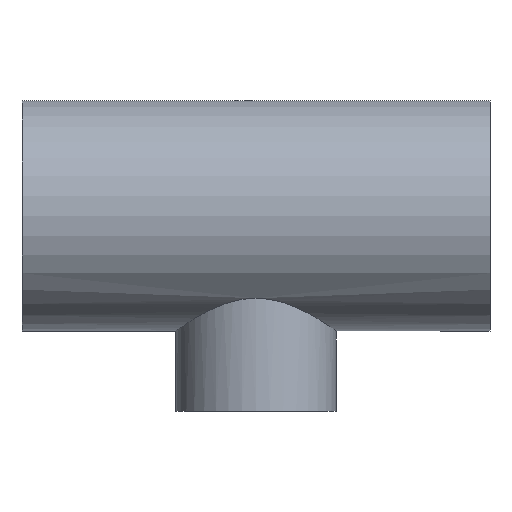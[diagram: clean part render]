
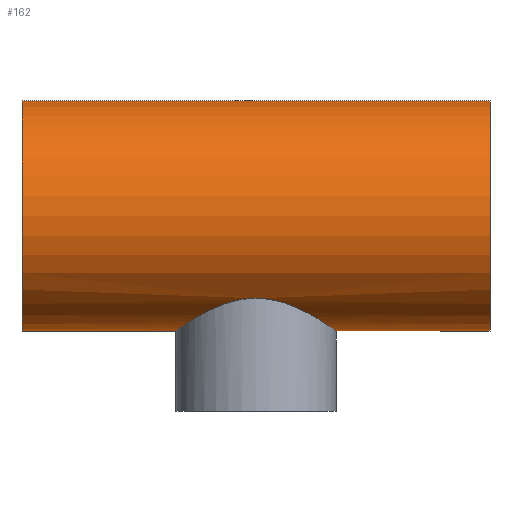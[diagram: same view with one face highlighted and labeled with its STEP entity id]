
A CAD part, top view. The second image highlights one B-rep face of the part: STEP entity #162.
In plain terms, the highlighted cylindrical face has radius 16.5 mm (diameter 33 mm), a full revolution.
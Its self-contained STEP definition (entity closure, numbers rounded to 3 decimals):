
#16=B_SPLINE_CURVE_WITH_KNOTS('',3,(#312,#313,#314,#315,#316,#317,#318,
#319,#320,#321,#322,#323,#324,#325,#326,#327,#328,#329,#330,#331,#332,#333,
#334,#335,#336,#337,#338,#339,#340,#341,#342,#343,#344,#345,#346,#347,#348,
#349,#350,#351,#352,#353,#354,#355,#356,#357,#358,#359,#360,#361),
 .UNSPECIFIED.,.T.,.F.,(4,2,2,2,2,2,2,2,2,2,2,2,2,2,2,2,2,2,2,2,2,2,2,2,
4),(0.,0.228,0.457,0.913,1.364,
1.589,1.814,2.039,2.265,2.715,
3.172,3.4,3.628,3.857,4.085,
4.542,4.992,5.218,5.443,5.668,
5.893,6.343,6.8,7.029,7.257),
 .UNSPECIFIED.);
#32=FACE_BOUND('',#69,.T.);
#33=FACE_BOUND('',#70,.T.);
#46=FACE_OUTER_BOUND('',#68,.T.);
#68=EDGE_LOOP('',(#136));
#69=EDGE_LOOP('',(#137));
#70=EDGE_LOOP('',(#138));
#88=CIRCLE('',#187,16.5);
#89=CIRCLE('',#188,16.5);
#101=VERTEX_POINT('',#309);
#102=VERTEX_POINT('',#311);
#103=VERTEX_POINT('',#362);
#115=EDGE_CURVE('',#101,#101,#88,.T.);
#116=EDGE_CURVE('',#102,#102,#16,.T.);
#117=EDGE_CURVE('',#103,#103,#89,.T.);
#136=ORIENTED_EDGE('',*,*,#115,.F.);
#137=ORIENTED_EDGE('',*,*,#116,.T.);
#138=ORIENTED_EDGE('',*,*,#117,.F.);
#152=CYLINDRICAL_SURFACE('',#186,16.5);
#162=ADVANCED_FACE('',(#46,#32,#33),#152,.T.);
#186=AXIS2_PLACEMENT_3D('',#308,#230,#231);
#187=AXIS2_PLACEMENT_3D('',#310,#232,#233);
#188=AXIS2_PLACEMENT_3D('',#363,#234,#235);
#230=DIRECTION('center_axis',(1.,0.,0.));
#231=DIRECTION('ref_axis',(0.,-1.,0.));
#232=DIRECTION('center_axis',(-1.,0.,0.));
#233=DIRECTION('ref_axis',(0.,-1.,0.));
#234=DIRECTION('center_axis',(1.,0.,0.));
#235=DIRECTION('ref_axis',(0.,-1.,0.));
#308=CARTESIAN_POINT('Origin',(0.,0.,0.));
#309=CARTESIAN_POINT('',(-33.5,16.5,0.));
#310=CARTESIAN_POINT('Origin',(-33.5,0.,0.));
#311=CARTESIAN_POINT('',(0.,-11.832,11.5));
#312=CARTESIAN_POINT('Ctrl Pts',(0.,-11.832,
11.5));
#313=CARTESIAN_POINT('Ctrl Pts',(0.761,-11.832,11.5));
#314=CARTESIAN_POINT('Ctrl Pts',(1.532,-11.908,11.423));
#315=CARTESIAN_POINT('Ctrl Pts',(3.039,-12.194,11.118));
#316=CARTESIAN_POINT('Ctrl Pts',(3.776,-12.403,10.889));
#317=CARTESIAN_POINT('Ctrl Pts',(5.877,-13.146,10.001));
#318=CARTESIAN_POINT('Ctrl Pts',(7.132,-13.791,9.131));
#319=CARTESIAN_POINT('Ctrl Pts',(9.117,-14.915,7.146));
#320=CARTESIAN_POINT('Ctrl Pts',(9.996,-15.483,5.889));
#321=CARTESIAN_POINT('Ctrl Pts',(10.891,-16.08,3.773));
#322=CARTESIAN_POINT('Ctrl Pts',(11.121,-16.237,3.03));
#323=CARTESIAN_POINT('Ctrl Pts',(11.425,-16.448,1.519));
#324=CARTESIAN_POINT('Ctrl Pts',(11.5,-16.5,0.751));
#325=CARTESIAN_POINT('Ctrl Pts',(11.5,-16.5,-0.751));
#326=CARTESIAN_POINT('Ctrl Pts',(11.425,-16.448,-1.519));
#327=CARTESIAN_POINT('Ctrl Pts',(11.121,-16.237,-3.03));
#328=CARTESIAN_POINT('Ctrl Pts',(10.891,-16.08,-3.773));
#329=CARTESIAN_POINT('Ctrl Pts',(9.996,-15.483,-5.889));
#330=CARTESIAN_POINT('Ctrl Pts',(9.117,-14.915,-7.146));
#331=CARTESIAN_POINT('Ctrl Pts',(7.132,-13.791,-9.131));
#332=CARTESIAN_POINT('Ctrl Pts',(5.877,-13.146,-10.001));
#333=CARTESIAN_POINT('Ctrl Pts',(3.776,-12.403,-10.889));
#334=CARTESIAN_POINT('Ctrl Pts',(3.039,-12.194,-11.118));
#335=CARTESIAN_POINT('Ctrl Pts',(1.532,-11.908,-11.423));
#336=CARTESIAN_POINT('Ctrl Pts',(0.761,-11.832,-11.5));
#337=CARTESIAN_POINT('Ctrl Pts',(-0.761,-11.832,-11.5));
#338=CARTESIAN_POINT('Ctrl Pts',(-1.532,-11.908,-11.423));
#339=CARTESIAN_POINT('Ctrl Pts',(-3.039,-12.194,-11.118));
#340=CARTESIAN_POINT('Ctrl Pts',(-3.776,-12.403,-10.889));
#341=CARTESIAN_POINT('Ctrl Pts',(-5.877,-13.146,-10.001));
#342=CARTESIAN_POINT('Ctrl Pts',(-7.132,-13.791,-9.131));
#343=CARTESIAN_POINT('Ctrl Pts',(-9.117,-14.915,-7.146));
#344=CARTESIAN_POINT('Ctrl Pts',(-9.996,-15.483,-5.889));
#345=CARTESIAN_POINT('Ctrl Pts',(-10.891,-16.08,-3.773));
#346=CARTESIAN_POINT('Ctrl Pts',(-11.121,-16.237,-3.03));
#347=CARTESIAN_POINT('Ctrl Pts',(-11.425,-16.448,-1.519));
#348=CARTESIAN_POINT('Ctrl Pts',(-11.5,-16.5,-0.751));
#349=CARTESIAN_POINT('Ctrl Pts',(-11.5,-16.5,0.751));
#350=CARTESIAN_POINT('Ctrl Pts',(-11.425,-16.448,1.519));
#351=CARTESIAN_POINT('Ctrl Pts',(-11.121,-16.237,3.03));
#352=CARTESIAN_POINT('Ctrl Pts',(-10.891,-16.08,3.773));
#353=CARTESIAN_POINT('Ctrl Pts',(-9.996,-15.483,5.889));
#354=CARTESIAN_POINT('Ctrl Pts',(-9.117,-14.915,7.146));
#355=CARTESIAN_POINT('Ctrl Pts',(-7.132,-13.791,9.131));
#356=CARTESIAN_POINT('Ctrl Pts',(-5.877,-13.146,10.001));
#357=CARTESIAN_POINT('Ctrl Pts',(-3.776,-12.403,10.889));
#358=CARTESIAN_POINT('Ctrl Pts',(-3.039,-12.194,11.118));
#359=CARTESIAN_POINT('Ctrl Pts',(-1.532,-11.908,11.423));
#360=CARTESIAN_POINT('Ctrl Pts',(-0.761,-11.832,11.5));
#361=CARTESIAN_POINT('Ctrl Pts',(0.,-11.832,
11.5));
#362=CARTESIAN_POINT('',(33.5,16.5,0.));
#363=CARTESIAN_POINT('Origin',(33.5,0.,0.));
